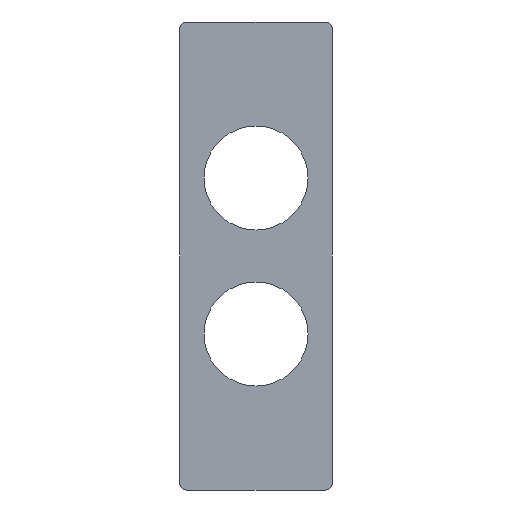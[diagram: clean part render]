
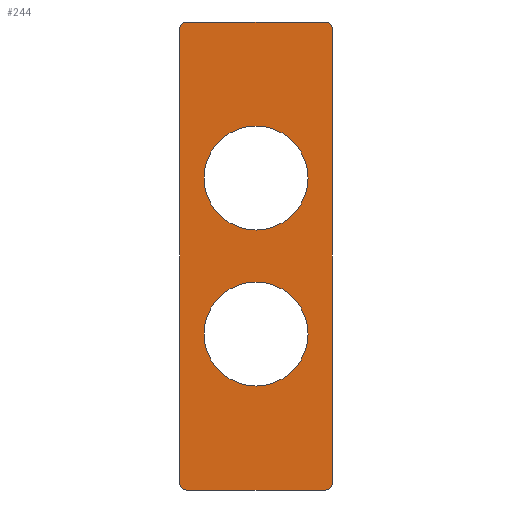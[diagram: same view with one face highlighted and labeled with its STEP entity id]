
A CAD part, front view. The second image highlights one B-rep face of the part: STEP entity #244.
In plain terms, the highlighted planar face has unit normal (0, -1, 0).
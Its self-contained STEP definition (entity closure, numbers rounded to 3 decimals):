
#1=CARTESIAN_POINT('',(0.,0.,-22.5));
#2=DIRECTION('',(0.,1.,0.));
#3=DIRECTION('',(1.,0.,0.));
#4=AXIS2_PLACEMENT_3D('',#1,#2,#3);
#6=CARTESIAN_POINT('',(0.,0.,-22.5));
#7=DIRECTION('',(0.,1.,0.));
#8=DIRECTION('',(-1.,0.,0.));
#9=AXIS2_PLACEMENT_3D('',#6,#7,#8);
#11=CARTESIAN_POINT('',(0.,0.,22.5));
#12=DIRECTION('',(0.,1.,0.));
#13=DIRECTION('',(1.,0.,0.));
#14=AXIS2_PLACEMENT_3D('',#11,#12,#13);
#16=CARTESIAN_POINT('',(0.,0.,22.5));
#17=DIRECTION('',(0.,1.,0.));
#18=DIRECTION('',(-1.,0.,0.));
#19=AXIS2_PLACEMENT_3D('',#16,#17,#18);
#21=DIRECTION('',(0.,0.,-1.));
#22=VECTOR('',#21,131.);
#23=CARTESIAN_POINT('',(22.,0.,65.5));
#24=LINE('',#23,#22);
#25=DIRECTION('',(-1.,0.,0.));
#26=VECTOR('',#25,40.);
#27=CARTESIAN_POINT('',(20.,0.,-67.5));
#28=LINE('',#27,#26);
#29=DIRECTION('',(0.,0.,1.));
#30=VECTOR('',#29,131.);
#31=CARTESIAN_POINT('',(-22.,0.,-65.5));
#32=LINE('',#31,#30);
#33=DIRECTION('',(1.,0.,0.));
#34=VECTOR('',#33,40.);
#35=CARTESIAN_POINT('',(-20.,0.,67.5));
#36=LINE('',#35,#34);
#102=CARTESIAN_POINT('',(20.,0.,65.5));
#103=DIRECTION('',(0.,-1.,0.));
#104=DIRECTION('',(1.,0.,0.));
#105=AXIS2_PLACEMENT_3D('',#102,#103,#104);
#120=CARTESIAN_POINT('',(-20.,0.,65.5));
#121=DIRECTION('',(0.,-1.,0.));
#122=DIRECTION('',(0.,0.,1.));
#123=AXIS2_PLACEMENT_3D('',#120,#121,#122);
#138=CARTESIAN_POINT('',(-20.,0.,-65.5));
#139=DIRECTION('',(0.,-1.,0.));
#140=DIRECTION('',(-1.,0.,0.));
#141=AXIS2_PLACEMENT_3D('',#138,#139,#140);
#156=CARTESIAN_POINT('',(20.,0.,-65.5));
#157=DIRECTION('',(0.,-1.,0.));
#158=DIRECTION('',(0.,0.,-1.));
#159=AXIS2_PLACEMENT_3D('',#156,#157,#158);
#162=CARTESIAN_POINT('',(20.,0.,67.5));
#164=VERTEX_POINT('',#162);
#167=CARTESIAN_POINT('',(22.,0.,65.5));
#168=VERTEX_POINT('',#167);
#170=CARTESIAN_POINT('',(-22.,0.,65.5));
#172=VERTEX_POINT('',#170);
#175=CARTESIAN_POINT('',(-20.,0.,67.5));
#176=VERTEX_POINT('',#175);
#178=CARTESIAN_POINT('',(-20.,0.,-67.5));
#180=VERTEX_POINT('',#178);
#183=CARTESIAN_POINT('',(-22.,0.,-65.5));
#184=VERTEX_POINT('',#183);
#186=CARTESIAN_POINT('',(22.,0.,-65.5));
#188=VERTEX_POINT('',#186);
#191=CARTESIAN_POINT('',(20.,0.,-67.5));
#192=VERTEX_POINT('',#191);
#193=CARTESIAN_POINT('',(15.,0.,-22.5));
#194=CARTESIAN_POINT('',(-15.,0.,-22.5));
#195=VERTEX_POINT('',#193);
#196=VERTEX_POINT('',#194);
#197=CARTESIAN_POINT('',(15.,0.,22.5));
#198=CARTESIAN_POINT('',(-15.,0.,22.5));
#199=VERTEX_POINT('',#197);
#200=VERTEX_POINT('',#198);
#209=CARTESIAN_POINT('',(0.,0.,0.));
#210=DIRECTION('',(0.,1.,0.));
#211=DIRECTION('',(1.,0.,0.));
#212=AXIS2_PLACEMENT_3D('',#209,#210,#211);
#213=PLANE('',#212);
#215=ORIENTED_EDGE('',*,*,#214,.F.);
#217=ORIENTED_EDGE('',*,*,#216,.T.);
#219=ORIENTED_EDGE('',*,*,#218,.F.);
#221=ORIENTED_EDGE('',*,*,#220,.T.);
#223=ORIENTED_EDGE('',*,*,#222,.F.);
#225=ORIENTED_EDGE('',*,*,#224,.T.);
#227=ORIENTED_EDGE('',*,*,#226,.F.);
#229=ORIENTED_EDGE('',*,*,#228,.T.);
#230=EDGE_LOOP('',(#215,#217,#219,#221,#223,#225,#227,#229));
#231=FACE_OUTER_BOUND('',#230,.F.);
#233=ORIENTED_EDGE('',*,*,#232,.F.);
#235=ORIENTED_EDGE('',*,*,#234,.F.);
#236=EDGE_LOOP('',(#233,#235));
#237=FACE_BOUND('',#236,.F.);
#239=ORIENTED_EDGE('',*,*,#238,.F.);
#241=ORIENTED_EDGE('',*,*,#240,.F.);
#242=EDGE_LOOP('',(#239,#241));
#243=FACE_BOUND('',#242,.F.);
#244=ADVANCED_FACE('',(#231,#237,#243),#213,.F.);
#5=CIRCLE('',#4,15.);
#10=CIRCLE('',#9,15.);
#15=CIRCLE('',#14,15.);
#20=CIRCLE('',#19,15.);
#106=CIRCLE('',#105,2.);
#124=CIRCLE('',#123,2.);
#142=CIRCLE('',#141,2.);
#160=CIRCLE('',#159,2.);
#214=EDGE_CURVE('',#168,#164,#106,.T.);
#216=EDGE_CURVE('',#168,#188,#24,.T.);
#218=EDGE_CURVE('',#192,#188,#160,.T.);
#220=EDGE_CURVE('',#192,#180,#28,.T.);
#222=EDGE_CURVE('',#184,#180,#142,.T.);
#224=EDGE_CURVE('',#184,#172,#32,.T.);
#226=EDGE_CURVE('',#176,#172,#124,.T.);
#228=EDGE_CURVE('',#176,#164,#36,.T.);
#232=EDGE_CURVE('',#195,#196,#5,.T.);
#234=EDGE_CURVE('',#196,#195,#10,.T.);
#238=EDGE_CURVE('',#199,#200,#15,.T.);
#240=EDGE_CURVE('',#200,#199,#20,.T.);
